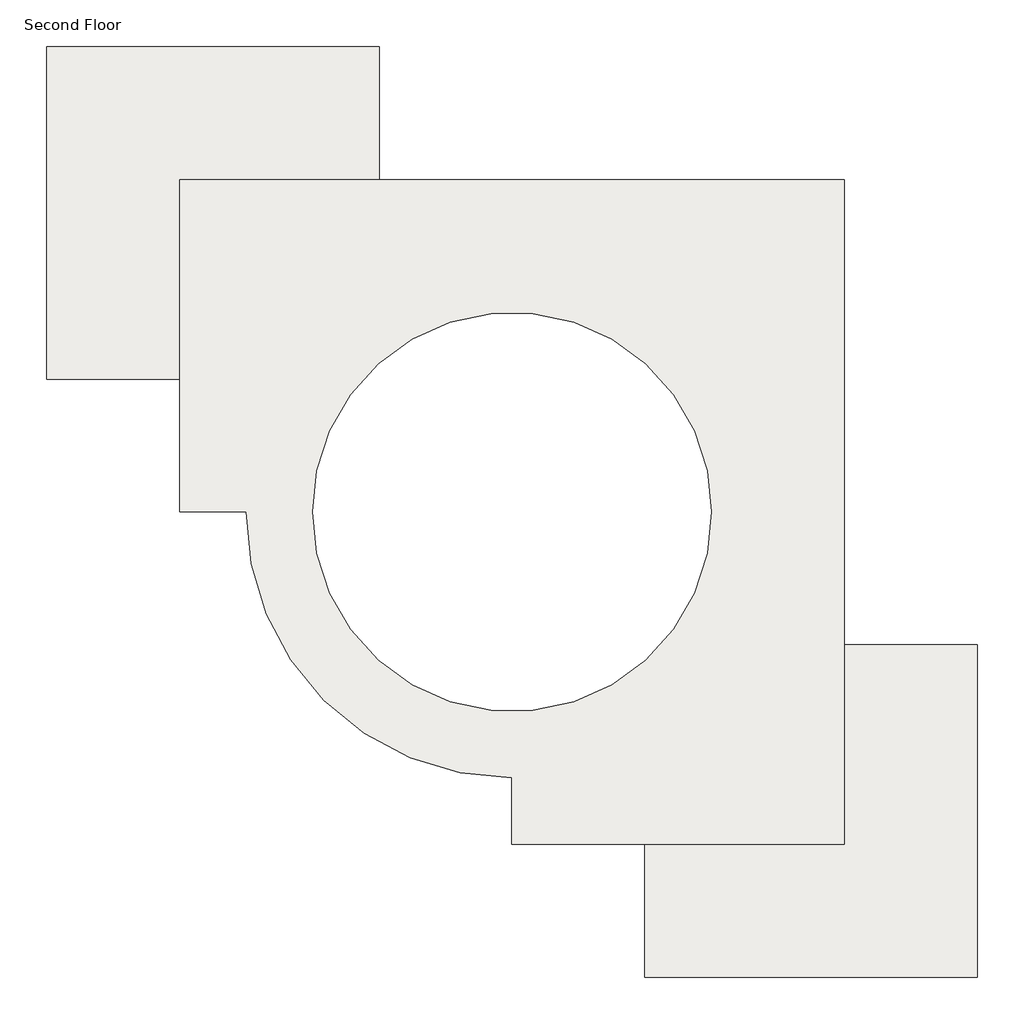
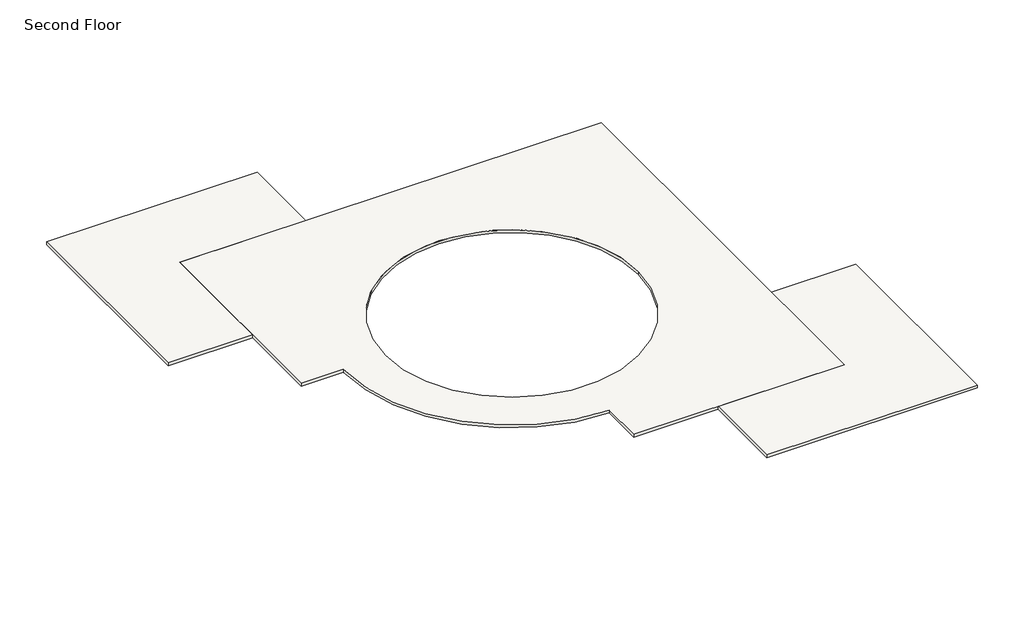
# One storey: 4 slabs.
"""IFC4 building model written with IfcOpenShell, lengths in millimetres."""

import ifcopenshell
import ifcopenshell.guid

model = None  # the IFC model being written
_history = None  # IfcOwnerHistory: only IFC2X3 demands one
_inside = {}  # id of a spatial element -> (the spatial element, [elements in it])
_under = {}  # id of a project, library or spatial element -> (it, [spatial elements below it])
_declared = {}  # id of a project -> (the project, [libraries it declares])
_typed = {}  # id of a type object -> (the type object, [elements of that type])
_made_of = {}  # id of a material, layer set ... -> (it, [elements and type objects made of it])


def new_model(schema):
    """Start an empty IFC model of exactly this schema.

    Asked for "IFC4X3", IfcOpenShell would pick the latest addendum, in which some entities
    have other attributes; the version numbers below select the first issue.
    IFC2X3 requires an IfcOwnerHistory on every rooted entity: one is made here for all.
    """
    global model, _history
    if schema == "IFC4X3":
        model = ifcopenshell.file(schema_version=(4, 3, 0, 0))
    else:
        model = ifcopenshell.file(schema=schema)
    _inside.clear()
    _under.clear()
    _declared.clear()
    _typed.clear()
    _made_of.clear()
    _history = None
    if model.schema == "IFC2X3":
        org = make("IfcOrganization", Name="unknown")
        user = make(
            "IfcPersonAndOrganization",
            ThePerson=make("IfcPerson", FamilyName="unknown"),
            TheOrganization=org,
        )
        app = make(
            "IfcApplication",
            ApplicationDeveloper=org,
            Version="unknown",
            ApplicationFullName="unknown",
            ApplicationIdentifier="unknown",
        )
        _history = make(
            "IfcOwnerHistory",
            OwningUser=user,
            OwningApplication=app,
            ChangeAction="ADDED",
            CreationDate=0,
        )
    return model


def make(cls, **values):
    """One entity of the class cls with the attributes given. An attribute that is None is left unset."""
    return model.create_entity(
        cls, **{name: value for name, value in values.items() if value is not None}
    )


def rooted(cls, **values):
    """An entity with a GlobalId (a new one), such as an element, a storey or a relation."""
    return make(cls, GlobalId=ifcopenshell.guid.new(), OwnerHistory=_history, **values)


def si_unit(unit_type, name, prefix=None):
    """IfcSIUnit, for example si_unit("LENGTHUNIT", "METRE", prefix="MILLI")."""
    return make("IfcSIUnit", UnitType=unit_type, Prefix=prefix, Name=name)


def assignment(units):
    """IfcUnitAssignment: the units of a project."""
    return None if units is None else make("IfcUnitAssignment", Units=units)


def point(xyz):
    """IfcCartesianPoint."""
    return None if xyz is None else make("IfcCartesianPoint", Coordinates=xyz)


def direction(xyz):
    """IfcDirection."""
    return None if xyz is None else make("IfcDirection", DirectionRatios=xyz)


def frame(location, z_axis=None, x_axis=None):
    """IfcAxis2Placement3D, a coordinate frame: its origin and axes. An axis left out is left unset."""
    return make(
        "IfcAxis2Placement3D",
        Location=point(location),
        Axis=direction(z_axis),
        RefDirection=direction(x_axis),
    )


def frame_2d(location, x_axis=None):
    """IfcAxis2Placement2D, a coordinate frame in the plane: its origin and x axis."""
    return make(
        "IfcAxis2Placement2D", Location=point(location), RefDirection=direction(x_axis)
    )


def origin():
    """The frame at (0, 0, 0) with its axes left unset."""
    return frame((0.0, 0.0, 0.0))


def place(relative_to, where):
    """IfcLocalPlacement: puts the frame where relative to a parent placement (None: the world)."""
    return make(
        "IfcLocalPlacement", PlacementRelTo=relative_to, RelativePlacement=where
    )


def context(
    kind, dimensions, precision=None, world=None, true_north=None, identifier=None
):
    """IfcGeometricRepresentationContext, for example the 3D "Model" context."""
    return make(
        "IfcGeometricRepresentationContext",
        ContextIdentifier=identifier,
        ContextType=kind,
        CoordinateSpaceDimension=dimensions,
        Precision=precision,
        WorldCoordinateSystem=world,
        TrueNorth=true_north,
    )


def project(units=None, contexts=None):
    """IfcProject with its units and contexts."""
    return rooted(
        "IfcProject",
        Name="project",
        RepresentationContexts=contexts,
        UnitsInContext=assignment(units),
    )


def spatial(cls, under=None, at=None, **own):
    """A site, building, storey or space (cls), placed at a placement, below another one or the project."""
    s = rooted(cls, ObjectPlacement=at, **own)
    if under is not None:
        _under.setdefault(under.id(), (under, []))[1].append(s)
    return s


def polyline(points):
    """IfcPolyline through the points."""
    return make("IfcPolyline", Points=[point(p) for p in points])


def circle_curve(where, radius):
    """IfcCircle in the frame where."""
    return make("IfcCircle", Position=where, Radius=radius)


def trimmed(basis, trim1, trim2, sense, master):
    """IfcTrimmedCurve: the piece of a basis curve between two trims."""
    return make(
        "IfcTrimmedCurve",
        BasisCurve=basis,
        Trim1=trim1,
        Trim2=trim2,
        SenseAgreement=sense,
        MasterRepresentation=master,
    )


def segment(curve, same_sense, transition):
    """IfcCompositeCurveSegment."""
    return make(
        "IfcCompositeCurveSegment",
        Transition=transition,
        SameSense=same_sense,
        ParentCurve=curve,
    )


def composite_curve(segments, self_intersect=None):
    """IfcCompositeCurve: segments joined end to end."""
    return make("IfcCompositeCurve", Segments=segments, SelfIntersect=self_intersect)


def outline(outer, holes=None, kind="AREA"):
    """IfcArbitraryClosedProfileDef: a profile drawn as a closed curve; with holes, ...WithVoids."""
    if holes is None:
        return make("IfcArbitraryClosedProfileDef", ProfileType=kind, OuterCurve=outer)
    return make(
        "IfcArbitraryProfileDefWithVoids",
        ProfileType=kind,
        OuterCurve=outer,
        InnerCurves=holes,
    )


def extrude(swept, where, along, depth):
    """IfcExtrudedAreaSolid: the profile swept, set in the frame where, extruded along a direction by depth."""
    return make(
        "IfcExtrudedAreaSolid",
        SweptArea=swept,
        Position=where,
        ExtrudedDirection=direction(along),
        Depth=depth,
    )


def shape(context_of_items, identifier, shape_type, items):
    """IfcShapeRepresentation: the items that make up one representation, for example the "Body"."""
    return make(
        "IfcShapeRepresentation",
        ContextOfItems=context_of_items,
        RepresentationIdentifier=identifier,
        RepresentationType=shape_type,
        Items=items,
    )


def made_of(thing, what):
    """Note that an element or type object is made of a material, layer set ...; save() writes the relation."""
    if what is not None:
        _made_of.setdefault(what.id(), (what, []))[1].append(thing)
    return thing


def element(
    cls,
    number,
    at=None,
    inside=None,
    cuts=None,
    type_object=None,
    material=None,
    context=None,
    identifier="Body",
    shape_type=None,
    held_by="IfcProductDefinitionShape",
    body=None,
    shapes=None,
    **own,
):
    """One element of the class cls, such as IfcWall. Its Tag is "e" and its number.

    at: its placement. inside: the storey or other place that contains it. cuts: it is an
    opening in that element (IfcRelVoidsElement). A single representation is given by context,
    identifier, shape_type and body (its items); several are given by shapes. held_by: the class
    of the entity that holds the representations. save() writes the other relations.
    """
    e = rooted(cls, Tag="e%d" % number, ObjectPlacement=at, **own)
    if body is not None:
        shapes = [shape(context, identifier, shape_type, body)]
    if shapes is not None:
        e.Representation = make(held_by, Representations=shapes)
    if inside is not None:
        _inside.setdefault(inside.id(), (inside, []))[1].append(e)
    if cuts is not None:
        rooted(
            "IfcRelVoidsElement", RelatingBuildingElement=cuts, RelatedOpeningElement=e
        )
    if type_object is not None:
        _typed.setdefault(type_object.id(), (type_object, []))[1].append(e)
    return made_of(e, material)


def aggregate(whole, parts):
    """IfcRelAggregates: a whole, such as a stair, and the parts it consists of."""
    return rooted("IfcRelAggregates", RelatingObject=whole, RelatedObjects=parts)


def save(model, path):
    """Write the relations noted so far, then the file.

    IfcRelAggregates (storeys below a building ...), IfcRelContainedInSpatialStructure (elements
    in a storey), IfcRelDefinesByType, IfcRelAssociatesMaterial and IfcRelDeclares: one each for
    every whole, place, type object, material and project.
    """
    for whole, parts in _under.values():
        aggregate(whole, parts)
    for where, things in _inside.values():
        rooted(
            "IfcRelContainedInSpatialStructure",
            RelatedElements=things,
            RelatingStructure=where,
        )
    for kind, things in _typed.values():
        rooted("IfcRelDefinesByType", RelatedObjects=things, RelatingType=kind)
    for what, things in _made_of.values():
        rooted("IfcRelAssociatesMaterial", RelatedObjects=things, RelatingMaterial=what)
    for by, libraries in _declared.values():
        rooted("IfcRelDeclares", RelatingContext=by, RelatedDefinitions=libraries)
    model.write(path)


model = new_model("IFC4")

# Units and contexts
model_context = context("Model", 3, world=origin())
ifc_project = project(units=[si_unit("LENGTHUNIT", "METRE", prefix="MILLI")], contexts=[model_context])

# Site, building, storey
site = spatial("IfcSite", under=ifc_project)
building = spatial("IfcBuilding", under=site)
storey = spatial("IfcBuildingStorey", under=building, Name="Second Floor", Elevation=3048.0)

# Slabs
placement = place(None, origin())
element("IfcSlab", 1, ObjectType="LW Concrete on Metal Deck", at=placement, inside=storey, context=model_context, shape_type="SweptSolid", body=[
    extrude(outline(composite_curve([segment(polyline([(5148.8943843, 6934.0139224), (5148.8943843, -8305.9860776), (-2471.1056157, -8305.9860776), (-2471.1056157, -6781.9860776)]), True, "CONTINUOUS"), segment(trimmed(circle_curve(frame_2d((-2471.1056157, -685.9860776)), 6096.0), [point((-2471.1056157, -6781.9860776))], [point((-8567.1056157, -685.9860776))], False, "CARTESIAN"), True, "CONTINUOUS"), segment(polyline([(-8567.1056157, -685.9860776), (-10091.1056157, -685.9860776), (-10091.1056157, 6934.0139224), (5148.8943843, 6934.0139224)]), True, "CONTINUOUS")], self_intersect=False), holes=[composite_curve([segment(trimmed(circle_curve(frame_2d((-2471.1056157, -685.9860776)), 4572.0), [point((2100.8943843, -685.9860776))], [point((-7043.1056157, -685.9860776))], True, "CARTESIAN"), True, "CONTINUOUS"), segment(trimmed(circle_curve(frame_2d((-2471.1056157, -685.9860776)), 4572.0), [point((-7043.1056157, -685.9860776))], [point((2100.8943843, -685.9860776))], True, "CARTESIAN"), True, "CONTINUOUS")], self_intersect=False)]), frame((0.0, 0.0, 2943.225), z_axis=(0.0, 0.0, 1.0), x_axis=(1.0, 0.0, 0.0)), (0.0, 0.0, 1.0), 104.775),
])
element("IfcSlab", 2, ObjectType="LW Concrete on Metal Deck", at=placement, inside=storey, context=model_context, shape_type="SweptSolid", body=[
    extrude(outline(polyline([(8196.8943843, -3733.9860776), (8196.8943843, -11353.9860776), (576.8943843, -11353.9860776), (576.8943843, -8305.9860776), (5148.8943843, -8305.9860776), (5148.8943843, -3733.9860776), (8196.8943843, -3733.9860776)])), frame((0.0, 0.0, 2943.225), z_axis=(0.0, 0.0, 1.0), x_axis=(1.0, 0.0, 0.0)), (0.0, 0.0, 1.0), 104.775),
    extrude(outline(polyline([(-5519.1056157, 9982.0139224), (-5519.1056157, 6934.0139224), (-10091.1056157, 6934.0139224), (-10091.1056157, 2362.0139224), (-13139.1056157, 2362.0139224), (-13139.1056157, 9982.0139224), (-5519.1056157, 9982.0139224)])), frame((0.0, 0.0, 2943.225), z_axis=(0.0, 0.0, 1.0), x_axis=(1.0, 0.0, 0.0)), (0.0, 0.0, 1.0), 104.775),
])
element("IfcSlab", 3, ObjectType="LW Concrete on Metal Deck", at=placement, inside=storey, context=model_context, shape_type="SweptSolid", body=[
    extrude(outline(composite_curve([segment(polyline([(5148.8943843, 6934.0139224), (5148.8943843, -8305.9860776), (-2471.1056157, -8305.9860776), (-2471.1056157, -6781.9860776)]), True, "CONTINUOUS"), segment(trimmed(circle_curve(frame_2d((-2471.1056157, -685.9860776)), 6096.0), [point((-2471.1056157, -6781.9860776))], [point((-8567.1056157, -685.9860776))], False, "CARTESIAN"), True, "CONTINUOUS"), segment(polyline([(-8567.1056157, -685.9860776), (-10091.1056157, -685.9860776), (-10091.1056157, 6934.0139224), (5148.8943843, 6934.0139224)]), True, "CONTINUOUS")], self_intersect=False), holes=[composite_curve([segment(trimmed(circle_curve(frame_2d((-2471.1056157, -685.9860776)), 4572.0), [point((2100.8943843, -685.9860776))], [point((-7043.1056157, -685.9860776))], True, "CARTESIAN"), True, "CONTINUOUS"), segment(trimmed(circle_curve(frame_2d((-2471.1056157, -685.9860776)), 4572.0), [point((-7043.1056157, -685.9860776))], [point((2100.8943843, -685.9860776))], True, "CARTESIAN"), True, "CONTINUOUS")], self_intersect=False)]), frame((0.0, 0.0, 2943.225), z_axis=(0.0, 0.0, 1.0), x_axis=(1.0, 0.0, 0.0)), (0.0, 0.0, 1.0), 104.775),
])
element("IfcSlab", 4, ObjectType="LW Concrete on Metal Deck", at=placement, inside=storey, context=model_context, shape_type="SweptSolid", body=[
    extrude(outline(polyline([(8196.8943843, -3733.9860776), (8196.8943843, -11353.9860776), (576.8943843, -11353.9860776), (576.8943843, -8305.9860776), (5148.8943843, -8305.9860776), (5148.8943843, -3733.9860776), (8196.8943843, -3733.9860776)])), frame((0.0, 0.0, 2943.225), z_axis=(0.0, 0.0, 1.0), x_axis=(1.0, 0.0, 0.0)), (0.0, 0.0, 1.0), 104.775),
    extrude(outline(polyline([(-5519.1056157, 9982.0139224), (-5519.1056157, 6934.0139224), (-10091.1056157, 6934.0139224), (-10091.1056157, 2362.0139224), (-13139.1056157, 2362.0139224), (-13139.1056157, 9982.0139224), (-5519.1056157, 9982.0139224)])), frame((0.0, 0.0, 2943.225), z_axis=(0.0, 0.0, 1.0), x_axis=(1.0, 0.0, 0.0)), (0.0, 0.0, 1.0), 104.775),
])

save(model, "model.ifc")
